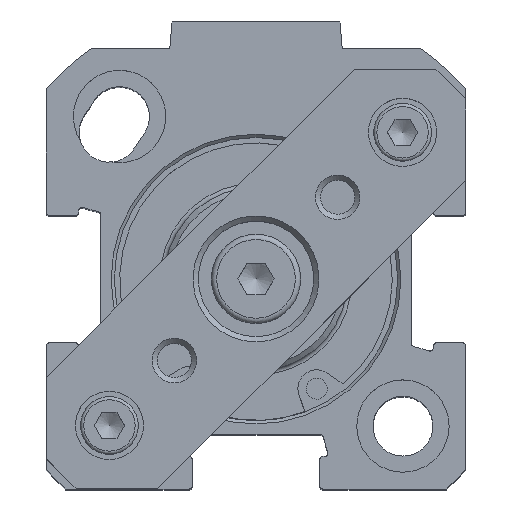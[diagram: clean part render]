
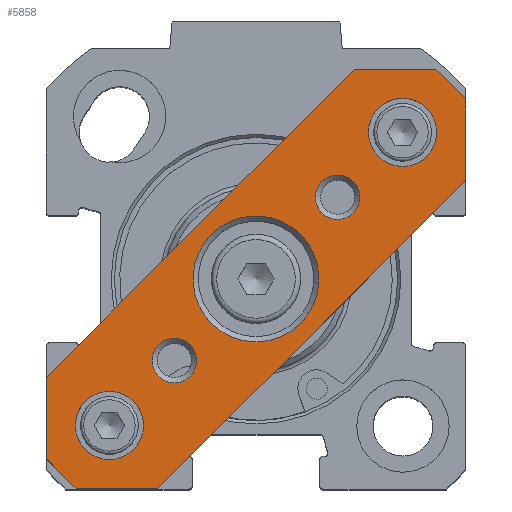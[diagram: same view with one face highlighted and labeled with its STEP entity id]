
A CAD part, top view. The second image highlights one B-rep face of the part: STEP entity #5858.
In plain terms, the highlighted planar face has unit normal (0, 0, 1).
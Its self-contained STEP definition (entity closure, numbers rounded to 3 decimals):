
#258=LINE('',#8661,#510);
#262=LINE('',#8670,#514);
#265=LINE('',#8676,#517);
#268=LINE('',#8682,#520);
#271=LINE('',#8688,#523);
#274=LINE('',#8694,#526);
#277=LINE('',#8700,#529);
#280=LINE('',#8706,#532);
#510=VECTOR('',#7363,1000.);
#514=VECTOR('',#7369,1000.);
#517=VECTOR('',#7374,1000.);
#520=VECTOR('',#7379,1000.);
#523=VECTOR('',#7384,1000.);
#526=VECTOR('',#7389,1000.);
#529=VECTOR('',#7394,1000.);
#532=VECTOR('',#7399,1000.);
#1463=ORIENTED_EDGE('',*,*,#2170,.F.);
#1464=ORIENTED_EDGE('',*,*,#2162,.F.);
#1465=ORIENTED_EDGE('',*,*,#2164,.F.);
#1466=ORIENTED_EDGE('',*,*,#2171,.T.);
#1467=ORIENTED_EDGE('',*,*,#2172,.T.);
#1468=ORIENTED_EDGE('',*,*,#2160,.F.);
#1469=ORIENTED_EDGE('',*,*,#2138,.F.);
#1470=ORIENTED_EDGE('',*,*,#2142,.F.);
#1471=ORIENTED_EDGE('',*,*,#2145,.F.);
#1472=ORIENTED_EDGE('',*,*,#2148,.F.);
#1473=ORIENTED_EDGE('',*,*,#2151,.F.);
#1474=ORIENTED_EDGE('',*,*,#2154,.F.);
#1475=ORIENTED_EDGE('',*,*,#2157,.F.);
#2138=EDGE_CURVE('',#2573,#2574,#258,.T.);
#2142=EDGE_CURVE('',#2577,#2573,#262,.T.);
#2145=EDGE_CURVE('',#2579,#2577,#265,.T.);
#2148=EDGE_CURVE('',#2581,#2579,#268,.T.);
#2151=EDGE_CURVE('',#2583,#2581,#271,.T.);
#2154=EDGE_CURVE('',#2585,#2583,#274,.T.);
#2157=EDGE_CURVE('',#2587,#2585,#277,.T.);
#2160=EDGE_CURVE('',#2574,#2587,#280,.T.);
#2162=EDGE_CURVE('',#2589,#2589,#2895,.T.);
#2164=EDGE_CURVE('',#2591,#2591,#2897,.T.);
#2170=EDGE_CURVE('',#2597,#2597,#2903,.T.);
#2171=EDGE_CURVE('',#2598,#2598,#2904,.T.);
#2172=EDGE_CURVE('',#2599,#2599,#2905,.T.);
#2573=VERTEX_POINT('',#8662);
#2574=VERTEX_POINT('',#8663);
#2577=VERTEX_POINT('',#8671);
#2579=VERTEX_POINT('',#8677);
#2581=VERTEX_POINT('',#8683);
#2583=VERTEX_POINT('',#8689);
#2585=VERTEX_POINT('',#8695);
#2587=VERTEX_POINT('',#8701);
#2589=VERTEX_POINT('',#8710);
#2591=VERTEX_POINT('',#8715);
#2597=VERTEX_POINT('',#8732);
#2598=VERTEX_POINT('',#8734);
#2599=VERTEX_POINT('',#8736);
#2895=CIRCLE('',#6332,2.121);
#2897=CIRCLE('',#6335,2.121);
#2903=CIRCLE('',#6346,6.);
#2904=CIRCLE('',#6347,3.25);
#2905=CIRCLE('',#6348,3.25);
#3235=EDGE_LOOP('',(#1463));
#3236=EDGE_LOOP('',(#1464));
#3237=EDGE_LOOP('',(#1465));
#3238=EDGE_LOOP('',(#1466));
#3239=EDGE_LOOP('',(#1467));
#3240=EDGE_LOOP('',(#1468,#1469,#1470,#1471,#1472,#1473,#1474,#1475));
#3667=FACE_BOUND('',#3235,.T.);
#3668=FACE_BOUND('',#3236,.T.);
#3669=FACE_BOUND('',#3237,.T.);
#3670=FACE_BOUND('',#3238,.T.);
#3671=FACE_BOUND('',#3239,.T.);
#3672=FACE_BOUND('',#3240,.T.);
#3928=PLANE('',#6345);
#5858=ADVANCED_FACE('',(#3667,#3668,#3669,#3670,#3671,#3672),#3928,.T.);
#6332=AXIS2_PLACEMENT_3D('',#8709,#7403,#7404);
#6335=AXIS2_PLACEMENT_3D('',#8714,#7409,#7410);
#6345=AXIS2_PLACEMENT_3D('',#8730,#7429,#7430);
#6346=AXIS2_PLACEMENT_3D('',#8731,#7431,#7432);
#6347=AXIS2_PLACEMENT_3D('',#8733,#7433,#7434);
#6348=AXIS2_PLACEMENT_3D('',#8735,#7435,#7436);
#7363=DIRECTION('',(-1.,0.,0.));
#7369=DIRECTION('',(-0.707,-0.707,0.));
#7374=DIRECTION('',(0.,-1.,0.));
#7379=DIRECTION('',(0.707,-0.707,0.));
#7384=DIRECTION('',(1.,0.,0.));
#7389=DIRECTION('',(0.707,0.707,0.));
#7394=DIRECTION('',(0.,1.,0.));
#7399=DIRECTION('',(-0.707,0.707,0.));
#7403=DIRECTION('',(0.,0.,1.));
#7404=DIRECTION('',(-0.707,-0.707,0.));
#7409=DIRECTION('',(0.,0.,1.));
#7410=DIRECTION('',(-0.707,-0.707,0.));
#7429=DIRECTION('',(0.,0.,1.));
#7430=DIRECTION('',(0.707,0.707,0.));
#7431=DIRECTION('',(0.,0.,1.));
#7432=DIRECTION('',(-0.707,-0.707,0.));
#7433=DIRECTION('',(0.,0.,-1.));
#7434=DIRECTION('',(0.707,0.707,0.));
#7435=DIRECTION('',(0.,0.,-1.));
#7436=DIRECTION('',(0.707,0.707,0.));
#8661=CARTESIAN_POINT('',(-9.369,-19.976,62.));
#8662=CARTESIAN_POINT('',(-9.369,-19.976,62.));
#8663=CARTESIAN_POINT('',(-17.147,-19.976,62.));
#8670=CARTESIAN_POINT('',(19.976,9.369,62.));
#8671=CARTESIAN_POINT('',(19.976,9.369,62.));
#8676=CARTESIAN_POINT('',(19.976,17.147,62.));
#8677=CARTESIAN_POINT('',(19.976,17.147,62.));
#8682=CARTESIAN_POINT('',(17.147,19.976,62.));
#8683=CARTESIAN_POINT('',(17.147,19.976,62.));
#8688=CARTESIAN_POINT('',(9.369,19.976,62.));
#8689=CARTESIAN_POINT('',(9.369,19.976,62.));
#8694=CARTESIAN_POINT('',(-19.976,-9.369,62.));
#8695=CARTESIAN_POINT('',(-19.976,-9.369,62.));
#8700=CARTESIAN_POINT('',(-19.976,-17.147,62.));
#8701=CARTESIAN_POINT('',(-19.976,-17.147,62.));
#8706=CARTESIAN_POINT('',(-17.147,-19.976,62.));
#8709=CARTESIAN_POINT('',(-7.778,-7.778,62.));
#8710=CARTESIAN_POINT('',(-6.278,-6.278,62.));
#8714=CARTESIAN_POINT('',(7.778,7.778,62.));
#8715=CARTESIAN_POINT('',(9.278,9.278,62.));
#8730=CARTESIAN_POINT('',(0.,0.,62.));
#8731=CARTESIAN_POINT('',(0.,0.,62.));
#8732=CARTESIAN_POINT('',(4.243,4.243,62.));
#8733=CARTESIAN_POINT('',(-13.965,-13.965,62.));
#8734=CARTESIAN_POINT('',(-11.667,-11.667,62.));
#8735=CARTESIAN_POINT('',(13.965,13.965,62.));
#8736=CARTESIAN_POINT('',(16.263,16.263,62.));
